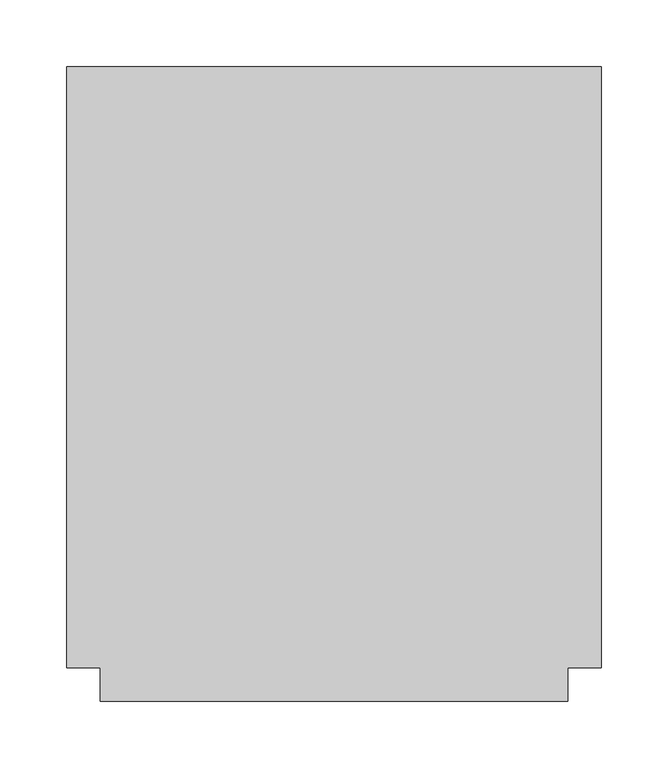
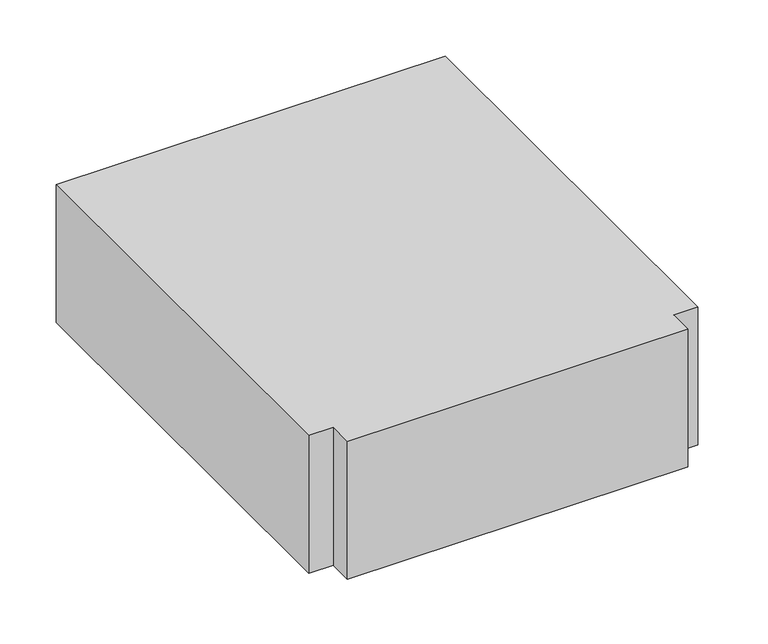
"""IFC4 building model written with IfcOpenShell, lengths in millimetres: duct fitting geometry, M_Te rectangular : Estándar."""

from ifc_helpers import new_model, si_unit, frame, origin, place, context, project, spatial, polyline, outline, extrude, source, transform, mapped, element, save


def duct_fitting_362f697e(model_context):
    return source(origin(), model_context, "Body", "SweptSolid", [
        extrude(outline(polyline([(-200.0, -225.0), (-200.0, 225.0), (200.0, 225.0), (200.0, -225.0), (175.0, -225.0), (175.0, -250.0), (-175.0, -250.0), (-175.0, -225.0), (-200.0, -225.0)])), frame((0.0, 0.0, -75.0), z_axis=(0.0, 0.0, 1.0), x_axis=(1.0, 0.0, 0.0)), (0.0, 0.0, 1.0), 150.0),
    ])


if __name__ == "__main__":
    model = new_model("IFC4")
    model_context = context("Model", 3, world=origin())
    ifc_project = project(units=[si_unit("LENGTHUNIT", "METRE", prefix="MILLI")], contexts=[model_context])
    site = spatial("IfcSite", under=ifc_project)
    building = spatial("IfcBuilding", under=site)
    placement = place(None, origin())
    duct_fitting_shape = duct_fitting_362f697e(model_context)
    element("IfcDuctFitting", 1, ObjectType="M_Te rectangular : Estándar", at=placement, inside=building, context=model_context, shape_type="MappedRepresentation", body=[
        mapped(duct_fitting_shape, transform((0.0, 0.0, 0.0), x_axis=(1.0, 0.0, 0.0), y_axis=(0.0, 1.0, 0.0), z_axis=(0.0, 0.0, 1.0))),
    ])
    save(model, "model.ifc")
